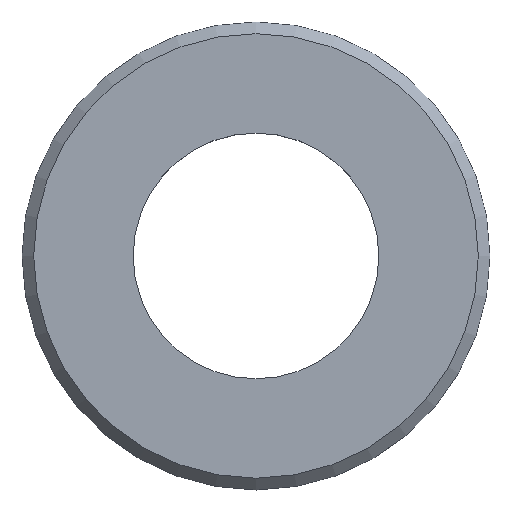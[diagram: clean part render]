
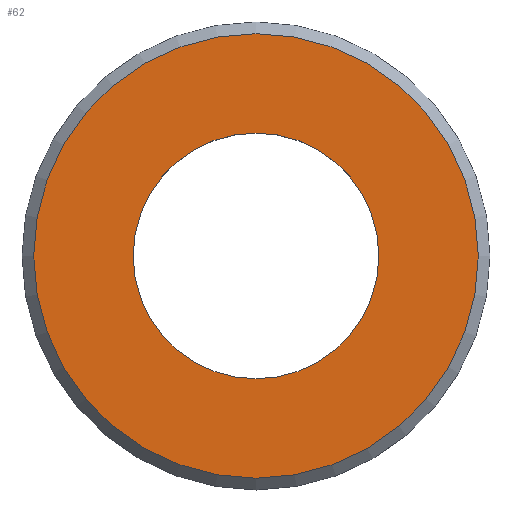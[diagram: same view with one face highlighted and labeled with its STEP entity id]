
A CAD part, top view. The second image highlights one B-rep face of the part: STEP entity #62.
In plain terms, the highlighted planar face has unit normal (0, 0, 1).
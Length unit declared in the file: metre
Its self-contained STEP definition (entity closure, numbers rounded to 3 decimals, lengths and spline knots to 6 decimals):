
#15=ORIENTED_EDGE('',*,*,#25,.F.);
#16=ORIENTED_EDGE('',*,*,#26,.T.);
#25=EDGE_CURVE('',#30,#30,#35,.T.);
#26=EDGE_CURVE('',#31,#31,#36,.T.);
#30=VERTEX_POINT('',#115);
#31=VERTEX_POINT('',#117);
#35=CIRCLE('',#81,0.0076);
#36=CIRCLE('',#82,0.0042);
#40=EDGE_LOOP('',(#15));
#41=EDGE_LOOP('',(#16));
#50=FACE_BOUND('',#40,.T.);
#51=FACE_BOUND('',#41,.T.);
#60=PLANE('',#80);
#62=ADVANCED_FACE('',(#50,#51),#60,.F.);
#80=AXIS2_PLACEMENT_3D('',#113,#92,#93);
#81=AXIS2_PLACEMENT_3D('',#114,#94,#95);
#82=AXIS2_PLACEMENT_3D('',#116,#96,#97);
#92=DIRECTION('',(0.,0.,-1.));
#93=DIRECTION('',(-1.,0.,0.));
#94=DIRECTION('',(0.,0.,-1.));
#95=DIRECTION('',(-1.,0.,0.));
#96=DIRECTION('',(0.,0.,-1.));
#97=DIRECTION('',(-1.,0.,0.));
#113=CARTESIAN_POINT('',(0.0059,0.,0.0008));
#114=CARTESIAN_POINT('',(0.,0.,0.0008));
#115=CARTESIAN_POINT('',(-0.0076,0.,0.0008));
#116=CARTESIAN_POINT('',(0.,0.,0.0008));
#117=CARTESIAN_POINT('',(-0.0042,0.,0.0008));
